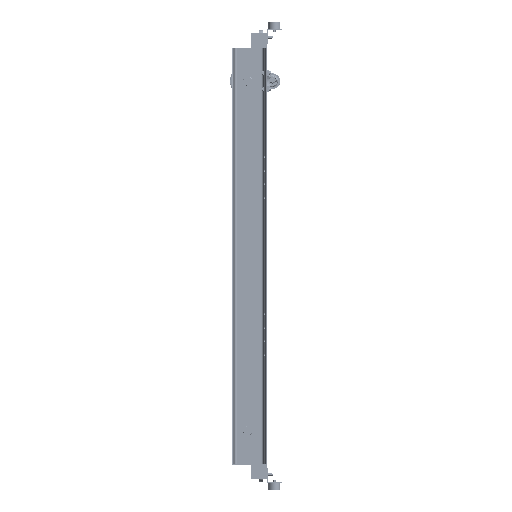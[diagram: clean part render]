
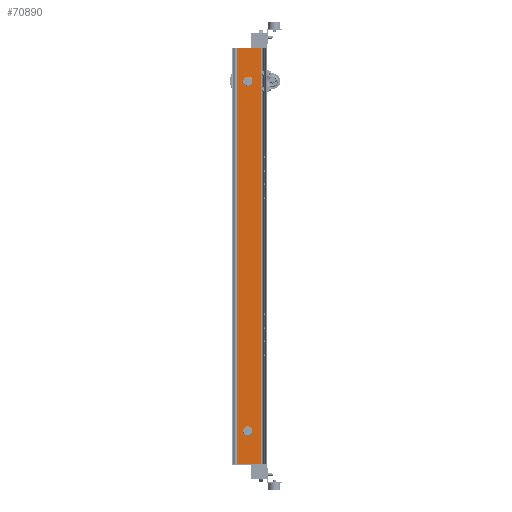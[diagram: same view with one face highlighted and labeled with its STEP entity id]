
A CAD part, left-side view. The second image highlights one B-rep face of the part: STEP entity #70890.
In plain terms, the highlighted planar face has unit normal (-1, 0, 0) as drawn and (1, 0, 0) by its records, which use the part's own axes.
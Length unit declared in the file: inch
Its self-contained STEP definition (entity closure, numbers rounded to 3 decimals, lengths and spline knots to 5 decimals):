
#2154 = DIRECTION ( 'NONE',  ( 1., 0., 0. ) ) ;
#13363 = DIRECTION ( 'NONE',  ( 1., 0., 0. ) ) ;
#14320 = DIRECTION ( 'NONE',  ( 0., 1., 0. ) ) ;
#14472 = CARTESIAN_POINT ( 'NONE',  ( 0.375, 6.76976, -47.5 ) ) ;
#15791 = DIRECTION ( 'NONE',  ( 0., 1., 0. ) ) ;
#16898 = FACE_BOUND ( 'NONE', #76562, .T. ) ;
#24232 = AXIS2_PLACEMENT_3D ( 'NONE', #87910, #135516, #72381 ) ;
#26010 = CIRCLE ( 'NONE', #187608, 0.986 ) ;
#28613 = FACE_BOUND ( 'NONE', #63781, .T. ) ;
#30707 = CARTESIAN_POINT ( 'NONE',  ( 0.375, 4.356, -40. ) ) ;
#37959 = EDGE_CURVE ( 'NONE', #48591, #84457, #163253, .T. ) ;
#39629 = CARTESIAN_POINT ( 'NONE',  ( 0.375, 4.356, 40. ) ) ;
#45884 = ORIENTED_EDGE ( 'NONE', *, *, #68737, .F. ) ;
#48591 = VERTEX_POINT ( 'NONE', #50052 ) ;
#50052 = CARTESIAN_POINT ( 'NONE',  ( 0.375, 6.76976, -47.5 ) ) ;
#51672 = CARTESIAN_POINT ( 'NONE',  ( 0.375, 3.37, -40. ) ) ;
#53429 = CARTESIAN_POINT ( 'NONE',  ( 0.375, 5.342, -40. ) ) ;
#53817 = EDGE_CURVE ( 'NONE', #183995, #48591, #80774, .T. ) ;
#53868 = ORIENTED_EDGE ( 'NONE', *, *, #188359, .F. ) ;
#58283 = LINE ( 'NONE', #60209, #80152 ) ;
#60209 = CARTESIAN_POINT ( 'NONE',  ( 0.375, 6.76976, 47.5 ) ) ;
#60673 = PLANE ( 'NONE',  #24232 ) ;
#63781 = EDGE_LOOP ( 'NONE', ( #45884, #53868 ) ) ;
#66193 = DIRECTION ( 'NONE',  ( 0., 0., -1. ) ) ;
#67837 = DIRECTION ( 'NONE',  ( 0., 1., 0. ) ) ;
#68737 = EDGE_CURVE ( 'NONE', #124172, #181095, #147780, .T. ) ;
#69193 = LINE ( 'NONE', #158624, #140419 ) ;
#70770 = CIRCLE ( 'NONE', #95606, 0.986 ) ;
#70890 = ADVANCED_FACE ( 'NONE', ( #28613, #16898, #76248 ), #60673, .T. ) ;
#72258 = AXIS2_PLACEMENT_3D ( 'NONE', #30707, #90018, #149321 ) ;
#72381 = DIRECTION ( 'NONE',  ( 0., 0., -1. ) ) ;
#73646 = AXIS2_PLACEMENT_3D ( 'NONE', #133448, #2154, #15791 ) ;
#76248 = FACE_OUTER_BOUND ( 'NONE', #137126, .T. ) ;
#76367 = VECTOR ( 'NONE', #66193, 39.37008 ) ;
#76562 = EDGE_LOOP ( 'NONE', ( #147534, #148064 ) ) ;
#77965 = ORIENTED_EDGE ( 'NONE', *, *, #37959, .F. ) ;
#80152 = VECTOR ( 'NONE', #103952, 39.37008 ) ;
#80774 = LINE ( 'NONE', #140068, #76367 ) ;
#84457 = VERTEX_POINT ( 'NONE', #186302 ) ;
#87910 = CARTESIAN_POINT ( 'NONE',  ( 0.375, 6.76976, 47.5 ) ) ;
#88343 = EDGE_CURVE ( 'NONE', #189053, #106936, #70770, .T. ) ;
#90018 = DIRECTION ( 'NONE',  ( 1., 0., 0. ) ) ;
#90329 = DIRECTION ( 'NONE',  ( 0., -1., 0. ) ) ;
#94011 = VECTOR ( 'NONE', #90329, 39.37008 ) ;
#95606 = AXIS2_PLACEMENT_3D ( 'NONE', #117411, #13363, #14320 ) ;
#96441 = DIRECTION ( 'NONE',  ( 0., 0., -1. ) ) ;
#96541 = EDGE_CURVE ( 'NONE', #106936, #189053, #26010, .T. ) ;
#103952 = DIRECTION ( 'NONE',  ( 0., -1., 0. ) ) ;
#104521 = CARTESIAN_POINT ( 'NONE',  ( 0.375, 3.37, 40. ) ) ;
#106936 = VERTEX_POINT ( 'NONE', #104521 ) ;
#111542 = CARTESIAN_POINT ( 'NONE',  ( 0.375, 6.76976, 47.5 ) ) ;
#113364 = CARTESIAN_POINT ( 'NONE',  ( 0.375, 5.342, 40. ) ) ;
#115670 = CIRCLE ( 'NONE', #72258, 0.986 ) ;
#117411 = CARTESIAN_POINT ( 'NONE',  ( 0.375, 4.356, 40. ) ) ;
#124172 = VERTEX_POINT ( 'NONE', #53429 ) ;
#133448 = CARTESIAN_POINT ( 'NONE',  ( 0.375, 4.356, -40. ) ) ;
#135516 = DIRECTION ( 'NONE',  ( 1., 0., 0. ) ) ;
#137126 = EDGE_LOOP ( 'NONE', ( #77965, #188907, #171850, #152719 ) ) ;
#140068 = CARTESIAN_POINT ( 'NONE',  ( 0.375, 6.76976, 47.5 ) ) ;
#140419 = VECTOR ( 'NONE', #96441, 39.37008 ) ;
#140777 = VERTEX_POINT ( 'NONE', #191131 ) ;
#147534 = ORIENTED_EDGE ( 'NONE', *, *, #88343, .F. ) ;
#147780 = CIRCLE ( 'NONE', #73646, 0.986 ) ;
#148064 = ORIENTED_EDGE ( 'NONE', *, *, #96541, .F. ) ;
#149321 = DIRECTION ( 'NONE',  ( 0., 1., 0. ) ) ;
#152719 = ORIENTED_EDGE ( 'NONE', *, *, #187517, .T. ) ;
#158624 = CARTESIAN_POINT ( 'NONE',  ( 0.375, 1.23024, 47.5 ) ) ;
#163253 = LINE ( 'NONE', #14472, #94011 ) ;
#171850 = ORIENTED_EDGE ( 'NONE', *, *, #175617, .T. ) ;
#173775 = DIRECTION ( 'NONE',  ( 1., 0., 0. ) ) ;
#175617 = EDGE_CURVE ( 'NONE', #183995, #140777, #58283, .T. ) ;
#181095 = VERTEX_POINT ( 'NONE', #51672 ) ;
#183995 = VERTEX_POINT ( 'NONE', #111542 ) ;
#186302 = CARTESIAN_POINT ( 'NONE',  ( 0.375, 1.23024, -47.5 ) ) ;
#187517 = EDGE_CURVE ( 'NONE', #140777, #84457, #69193, .T. ) ;
#187608 = AXIS2_PLACEMENT_3D ( 'NONE', #39629, #173775, #67837 ) ;
#188359 = EDGE_CURVE ( 'NONE', #181095, #124172, #115670, .T. ) ;
#188907 = ORIENTED_EDGE ( 'NONE', *, *, #53817, .F. ) ;
#189053 = VERTEX_POINT ( 'NONE', #113364 ) ;
#191131 = CARTESIAN_POINT ( 'NONE',  ( 0.375, 1.23024, 47.5 ) ) ;
